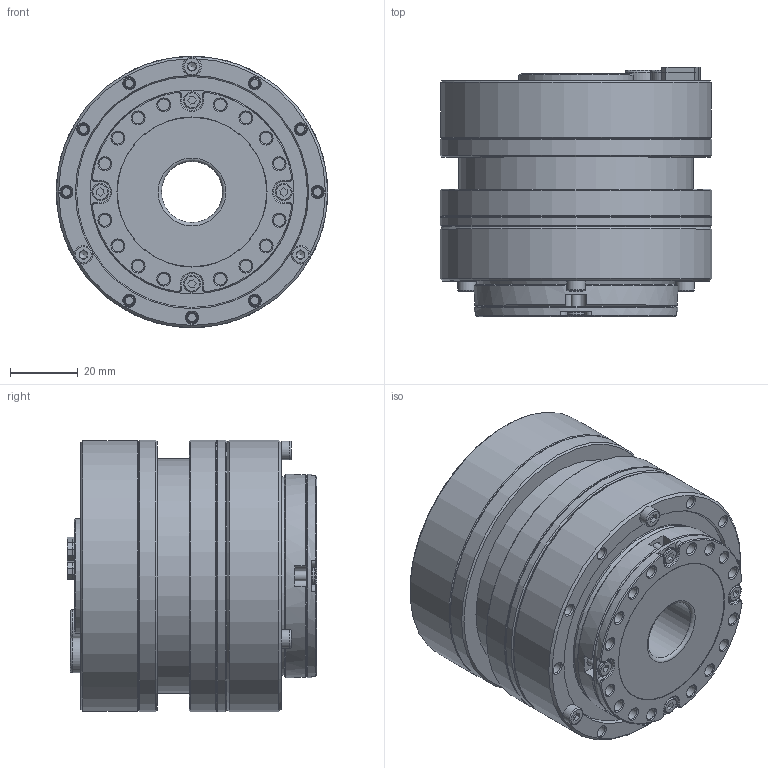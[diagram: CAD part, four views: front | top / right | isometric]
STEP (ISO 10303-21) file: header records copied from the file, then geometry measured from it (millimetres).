
FILE_DESCRIPTION (( 'STEP AP214' ), '1' );
FILE_NAME ('CRA-RI60-80-PRO-XX-2E-EC.STEP', '2024-08-30T04:52:32', ( '' ), ( '' ), 'SwSTEP 2.0', 'SolidWorks 2021', '' );
FILE_SCHEMA (( 'AUTOMOTIVE_DESIGN' ));
Length unit declared in the file: millimetre
Products named in the file (1): CRA-RI60-80-PRO-XX-2E-EC
Bounding box: 80 x 73.5 x 80 mm (x, y, z)
Surface area: 57854.8 mm2 (no closed solid volume)
Topology: 0 solids, 207 shells, 515 faces, 1823 edges, 1477 vertices
Faces by surface type: plane 234, cylinder 142, cone 119, torus 19, bspline 1
Full cylindrical faces by diameter (mm): 1.6 x4, 2 x2, 2.1 x2, 2.5 x14, 2.9 x4, 3.5 x29, 4.2 x4, 5 x4, 5.5 x3, 10.2 x2, 18 x1, 25.2 x1, 27.1 x1, 34 x1, 44 x1, 59 x1, 60 x2, 68 x1, 69 x1, 77.2 x2, 80 x5
Entity records: 33404 total; most frequent: CARTESIAN_POINT 13024, DIRECTION 3018, ORIENTED_EDGE 2091, EDGE_CURVE 1626, VERTEX_POINT 1455, AXIS2_PLACEMENT_3D 1085, EDGE_LOOP 856, LINE 848
